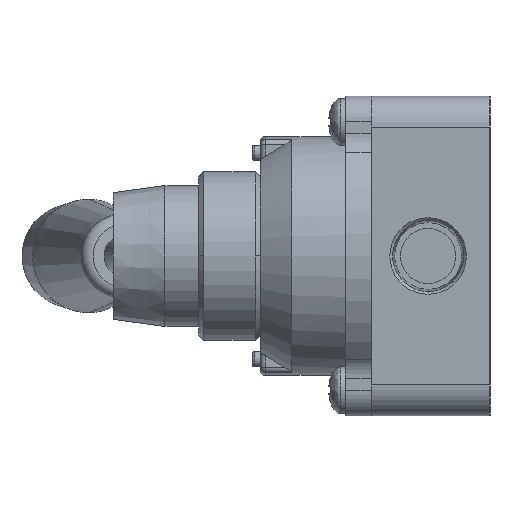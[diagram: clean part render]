
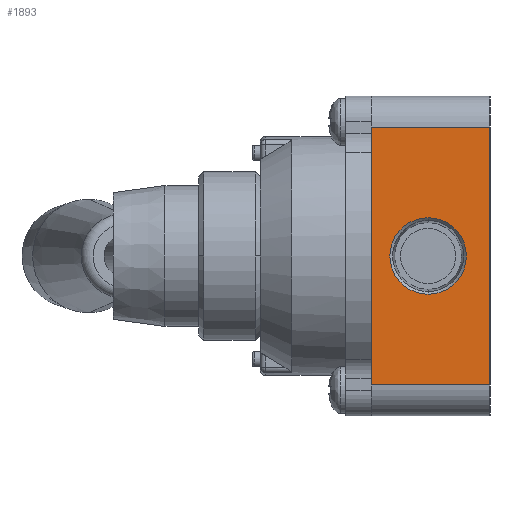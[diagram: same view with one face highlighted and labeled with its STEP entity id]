
A CAD part, left-side view. The second image highlights one B-rep face of the part: STEP entity #1893.
In plain terms, the highlighted planar face has unit normal (-1, 0, 0).
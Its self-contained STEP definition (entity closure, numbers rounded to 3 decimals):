
#8 = LINE ( 'NONE', #2633, #4705 ) ;
#87 = DIRECTION ( 'NONE',  ( 0., 0., 1. ) ) ;
#232 = DIRECTION ( 'NONE',  ( 0., 0., -1. ) ) ;
#307 = DIRECTION ( 'NONE',  ( 1., 0., 0. ) ) ;
#709 = LINE ( 'NONE', #1935, #1315 ) ;
#786 = DIRECTION ( 'NONE',  ( 1., 0., 0. ) ) ;
#928 = CARTESIAN_POINT ( 'NONE',  ( -31., 12., 0. ) ) ;
#1225 = EDGE_CURVE ( 'NONE', #5887, #3718, #709, .T. ) ;
#1315 = VECTOR ( 'NONE', #3184, 1000. ) ;
#1605 = EDGE_CURVE ( 'NONE', #3899, #7331, #5048, .T. ) ;
#1618 = EDGE_CURVE ( 'NONE', #7331, #3718, #8, .T. ) ;
#1893 = ADVANCED_FACE ( 'NONE', ( #3836, #7009 ), #7799, .F. ) ;
#1935 = CARTESIAN_POINT ( 'NONE',  ( -31., 23., 25. ) ) ;
#2097 = AXIS2_PLACEMENT_3D ( 'NONE', #928, #307, #4661 ) ;
#2493 = CARTESIAN_POINT ( 'NONE',  ( -31., 12., 7.408 ) ) ;
#2522 = EDGE_CURVE ( 'NONE', #6814, #5974, #5968, .T. ) ;
#2633 = CARTESIAN_POINT ( 'NONE',  ( -31., 0., 25. ) ) ;
#2711 = CARTESIAN_POINT ( 'NONE',  ( -31., 12., 0. ) ) ;
#3184 = DIRECTION ( 'NONE',  ( 0., -1., 0. ) ) ;
#3199 = AXIS2_PLACEMENT_3D ( 'NONE', #2711, #3282, #232 ) ;
#3257 = DIRECTION ( 'NONE',  ( 0., 0., -1. ) ) ;
#3282 = DIRECTION ( 'NONE',  ( 1., 0., 0. ) ) ;
#3639 = ORIENTED_EDGE ( 'NONE', *, *, #1618, .T. ) ;
#3672 = CARTESIAN_POINT ( 'NONE',  ( -31., 23., 25. ) ) ;
#3718 = VERTEX_POINT ( 'NONE', #3939 ) ;
#3747 = CARTESIAN_POINT ( 'NONE',  ( -31., 23., -25. ) ) ;
#3836 = FACE_BOUND ( 'NONE', #6986, .T. ) ;
#3897 = ORIENTED_EDGE ( 'NONE', *, *, #4313, .F. ) ;
#3899 = VERTEX_POINT ( 'NONE', #3747 ) ;
#3929 = VECTOR ( 'NONE', #4494, 1000. ) ;
#3939 = CARTESIAN_POINT ( 'NONE',  ( -31., 0., 25. ) ) ;
#4313 = EDGE_CURVE ( 'NONE', #3899, #5887, #7521, .T. ) ;
#4324 = AXIS2_PLACEMENT_3D ( 'NONE', #5732, #786, #3257 ) ;
#4433 = CIRCLE ( 'NONE', #2097, 7.408 ) ;
#4494 = DIRECTION ( 'NONE',  ( 0., -1., 0. ) ) ;
#4605 = CARTESIAN_POINT ( 'NONE',  ( -31., 12., -7.408 ) ) ;
#4629 = ORIENTED_EDGE ( 'NONE', *, *, #2522, .T. ) ;
#4661 = DIRECTION ( 'NONE',  ( 0., 0., -1. ) ) ;
#4672 = CARTESIAN_POINT ( 'NONE',  ( -31., 23., 25. ) ) ;
#4705 = VECTOR ( 'NONE', #87, 1000. ) ;
#4731 = EDGE_LOOP ( 'NONE', ( #3639, #6606, #3897, #7382 ) ) ;
#5048 = LINE ( 'NONE', #7619, #3929 ) ;
#5365 = ORIENTED_EDGE ( 'NONE', *, *, #7503, .T. ) ;
#5728 = DIRECTION ( 'NONE',  ( 0., 0., 1. ) ) ;
#5732 = CARTESIAN_POINT ( 'NONE',  ( -31., 23., 25. ) ) ;
#5887 = VERTEX_POINT ( 'NONE', #3672 ) ;
#5968 = CIRCLE ( 'NONE', #3199, 7.408 ) ;
#5974 = VERTEX_POINT ( 'NONE', #4605 ) ;
#6386 = CARTESIAN_POINT ( 'NONE',  ( -31., 0., -25. ) ) ;
#6606 = ORIENTED_EDGE ( 'NONE', *, *, #1225, .F. ) ;
#6814 = VERTEX_POINT ( 'NONE', #2493 ) ;
#6986 = EDGE_LOOP ( 'NONE', ( #4629, #5365 ) ) ;
#7009 = FACE_OUTER_BOUND ( 'NONE', #4731, .T. ) ;
#7331 = VERTEX_POINT ( 'NONE', #6386 ) ;
#7382 = ORIENTED_EDGE ( 'NONE', *, *, #1605, .T. ) ;
#7503 = EDGE_CURVE ( 'NONE', #5974, #6814, #4433, .T. ) ;
#7521 = LINE ( 'NONE', #4672, #8124 ) ;
#7619 = CARTESIAN_POINT ( 'NONE',  ( -31., 23., -25. ) ) ;
#7799 = PLANE ( 'NONE',  #4324 ) ;
#8124 = VECTOR ( 'NONE', #5728, 1000. ) ;
